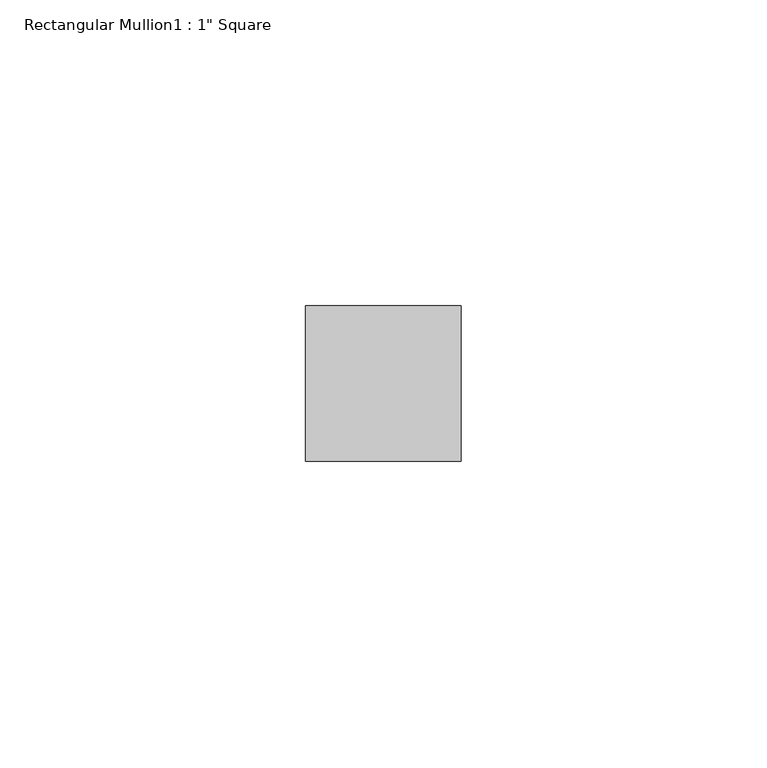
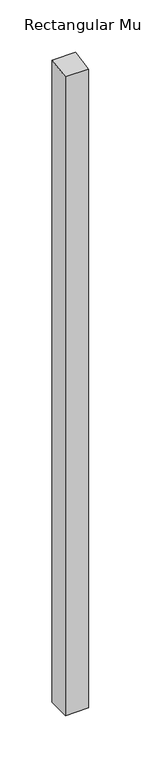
"""IFC4 building model written with IfcOpenShell, lengths in millimetres: member geometry."""

from ifc_helpers import new_model, si_unit, frame, origin, place, context, project, spatial, polyline, outline, extrude, source, transform, mapped, element, save


def member_6a737cc0(model_context):
    return source(origin(), model_context, "Body", "SweptSolid", [
        extrude(outline(polyline([(-44.45, -7.0452458), (-19.05, -3.019391), (-19.05, -749.7376951), (-44.45, -749.7376951), (-44.45, -7.0452458)])), frame((-12.7, 0.0, 0.0), z_axis=(1.0, 0.0, 0.0), x_axis=(0.0, 1.0, 0.0)), (0.0, 0.0, 1.0), 25.4),
    ])


if __name__ == "__main__":
    model = new_model("IFC4")
    model_context = context("Model", 3, world=origin())
    ifc_project = project(units=[si_unit("LENGTHUNIT", "METRE", prefix="MILLI")], contexts=[model_context])
    site = spatial("IfcSite", under=ifc_project)
    building = spatial("IfcBuilding", under=site)
    placement = place(None, origin())
    member_shape = member_6a737cc0(model_context)
    element("IfcMember", 1, ObjectType="Rectangular Mullion1 : 1\" Square", at=placement, inside=building, context=model_context, shape_type="MappedRepresentation", body=[
        mapped(member_shape, transform((0.0, 0.0, 0.0), x_axis=(1.0, 0.0, 0.0), y_axis=(0.0, 1.0, 0.0), z_axis=(0.0, 0.0, 1.0))),
    ])
    save(model, "model.ifc")
